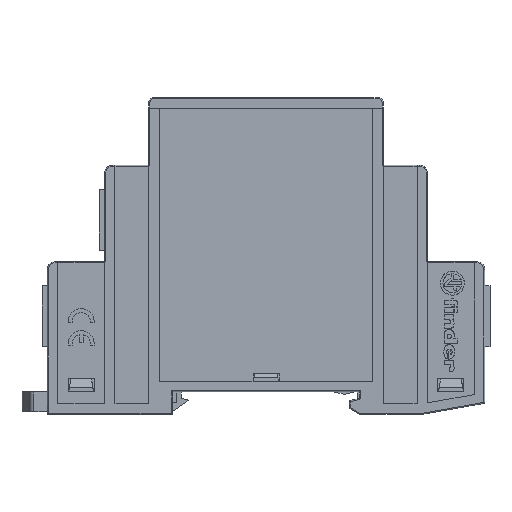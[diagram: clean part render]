
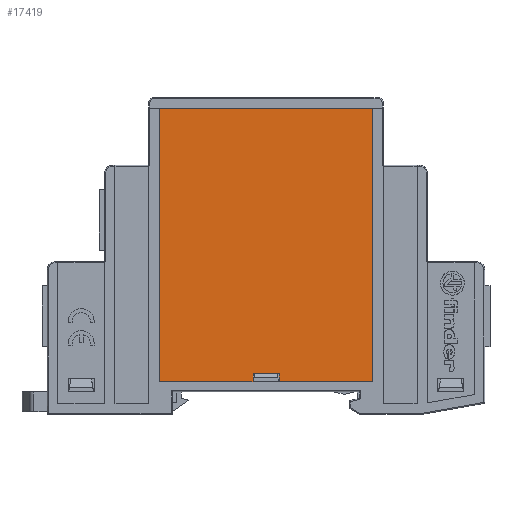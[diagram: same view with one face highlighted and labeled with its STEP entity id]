
A CAD part, left-side view. The second image highlights one B-rep face of the part: STEP entity #17419.
In plain terms, the highlighted planar face has unit normal (-1, 0, 0).
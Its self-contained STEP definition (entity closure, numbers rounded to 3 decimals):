
#3584=ORIENTED_EDGE('',*,*,#7298,.F.);
#3585=ORIENTED_EDGE('',*,*,#7393,.T.);
#3586=ORIENTED_EDGE('',*,*,#7394,.T.);
#3587=ORIENTED_EDGE('',*,*,#7395,.F.);
#3588=ORIENTED_EDGE('',*,*,#7301,.F.);
#3589=ORIENTED_EDGE('',*,*,#7391,.F.);
#3590=ORIENTED_EDGE('',*,*,#7396,.F.);
#3591=ORIENTED_EDGE('',*,*,#7397,.F.);
#7298=EDGE_CURVE('',#9619,#9620,#11676,.T.);
#7301=EDGE_CURVE('',#9621,#9623,#11679,.T.);
#7391=EDGE_CURVE('',#9687,#9621,#11752,.T.);
#7393=EDGE_CURVE('',#9619,#9689,#11754,.T.);
#7394=EDGE_CURVE('',#9689,#9690,#11755,.T.);
#7395=EDGE_CURVE('',#9623,#9690,#11756,.T.);
#7396=EDGE_CURVE('',#9691,#9687,#11757,.T.);
#7397=EDGE_CURVE('',#9620,#9691,#11758,.T.);
#9619=VERTEX_POINT('',#27402);
#9620=VERTEX_POINT('',#27404);
#9621=VERTEX_POINT('',#27408);
#9623=VERTEX_POINT('',#27411);
#9687=VERTEX_POINT('',#27638);
#9689=VERTEX_POINT('',#27644);
#9690=VERTEX_POINT('',#27646);
#9691=VERTEX_POINT('',#27649);
#11676=LINE('',#27403,#13517);
#11679=LINE('',#27410,#13520);
#11752=LINE('',#27640,#13593);
#11754=LINE('',#27643,#13595);
#11755=LINE('',#27645,#13596);
#11756=LINE('',#27647,#13597);
#11757=LINE('',#27648,#13598);
#11758=LINE('',#27650,#13599);
#13517=VECTOR('',#21702,1000.);
#13520=VECTOR('',#21707,1000.);
#13593=VECTOR('',#21866,1000.);
#13595=VECTOR('',#21870,1000.);
#13596=VECTOR('',#21871,1000.);
#13597=VECTOR('',#21872,1000.);
#13598=VECTOR('',#21873,1000.);
#13599=VECTOR('',#21874,1000.);
#14859=EDGE_LOOP('',(#3584,#3585,#3586,#3587,#3588,#3589,#3590,#3591));
#15886=FACE_BOUND('',#14859,.T.);
#16742=PLANE('',#18792);
#17419=ADVANCED_FACE('',(#15886),#16742,.T.);
#18792=AXIS2_PLACEMENT_3D('',#27642,#21868,#21869);
#21702=DIRECTION('',(0.,1.,0.));
#21707=DIRECTION('',(0.,1.,0.));
#21866=DIRECTION('',(0.,0.,-1.));
#21868=DIRECTION('',(-1.,0.,0.));
#21869=DIRECTION('',(0.,0.,1.));
#21870=DIRECTION('',(0.,0.,1.));
#21871=DIRECTION('',(0.,-1.,0.));
#21872=DIRECTION('',(0.,0.,1.));
#21873=DIRECTION('',(0.,-1.,0.));
#21874=DIRECTION('',(0.,0.,1.));
#27402=CARTESIAN_POINT('',(-25.203,55.274,-21.5));
#27403=CARTESIAN_POINT('',(-25.203,55.274,-21.5));
#27404=CARTESIAN_POINT('',(-25.203,73.274,-21.5));
#27408=CARTESIAN_POINT('',(-25.203,32.274,-21.5));
#27410=CARTESIAN_POINT('',(-25.203,32.274,-21.5));
#27411=CARTESIAN_POINT('',(-25.203,50.274,-21.5));
#27638=CARTESIAN_POINT('',(-25.203,32.274,31.));
#27640=CARTESIAN_POINT('',(-25.203,32.274,31.));
#27642=CARTESIAN_POINT('',(-25.203,10.773,-27.801));
#27643=CARTESIAN_POINT('',(-25.203,55.274,-21.5));
#27644=CARTESIAN_POINT('',(-25.203,55.274,-20.));
#27645=CARTESIAN_POINT('',(-25.203,55.274,-20.));
#27646=CARTESIAN_POINT('',(-25.203,50.274,-20.));
#27647=CARTESIAN_POINT('',(-25.203,50.274,-21.5));
#27648=CARTESIAN_POINT('',(-25.203,73.274,31.));
#27649=CARTESIAN_POINT('',(-25.203,73.274,31.));
#27650=CARTESIAN_POINT('',(-25.203,73.274,-21.5));
